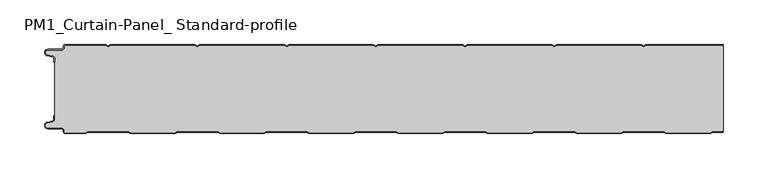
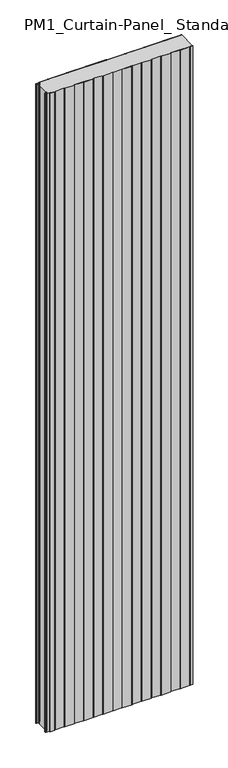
"""IFC4 building model written with IfcOpenShell, lengths in millimetres: plate geometry, PM1_Curtain-Panel_ Standard-profile : ACH_PM1_Acoustic-Sectioning-Panel_100M."""

from ifc_helpers import new_model, si_unit, point, frame_2d, origin, origin_with_axes, place, context, project, spatial, polyline, circle_curve, trimmed, segment, composite_curve, outline, extrude, source, transform, mapped, element, save


def pm1_curtain_panel_standard_profile_fd7bc9c6(model_context):
    return source(origin(), model_context, "Body", "SweptSolid", [
        extrude(outline(composite_curve([segment(trimmed(circle_curve(frame_2d((-377.0, -15.878557)), 2.0), [point((-375.0, -15.878557))], [point((-376.5500978, -13.9298169))], True, "CARTESIAN"), True, "CONTINUOUS"), segment(polyline([(-376.5500978, -13.9298169), (-382.7098239, -12.507732)]), True, "CONTINUOUS"), segment(trimmed(circle_curve(frame_2d((-381.9, -9.0)), 3.6), [point((-382.7098239, -12.507732))], [point((-381.9, -5.4))], False, "CARTESIAN"), True, "CONTINUOUS"), segment(polyline([(-381.9, -5.4), (-366.4, -5.4)]), True, "CONTINUOUS"), segment(trimmed(circle_curve(frame_2d((-366.4, -3.4)), 2.0), [point((-366.4, -5.4))], [point((-364.4, -3.4))], True, "CARTESIAN"), True, "CONTINUOUS"), segment(polyline([(-364.4, -3.4), (-364.4, -2.0)]), True, "CONTINUOUS"), segment(trimmed(circle_curve(frame_2d((-362.4, -2.0)), 2.0), [point((-364.4, -2.0))], [point((-362.4, 0.0))], False, "CARTESIAN"), True, "CONTINUOUS"), segment(polyline([(-362.4, 0.0), (-317.0999995, 0.0), (-314.4, -1.5588455), (-311.7000005, 0.0), (-217.0999995, 0.0), (-214.4, -1.5588455), (-211.7000005, 0.0), (-117.0999995, 0.0), (-114.4, -1.5588455), (-111.7000005, 0.0), (-17.0999995, 0.0), (-14.4, -1.5588455), (-11.7000005, 0.0), (82.9000005, 0.0), (85.6, -1.5588455), (88.2999995, 0.0), (182.9000005, 0.0), (185.6, -1.5588455), (188.2999995, 0.0), (282.9000005, 0.0), (285.6, -1.5588455), (288.2999995, 0.0), (375.0, 0.0), (375.0, -0.8), (288.5143588, -0.8), (285.6, -2.482606), (282.6856412, -0.8), (188.5143588, -0.8), (185.6, -2.482606), (182.6856412, -0.8), (88.5143588, -0.8), (85.6, -2.482606), (82.6856412, -0.8), (-11.4856412, -0.8), (-14.4, -2.482606), (-17.3143588, -0.8), (-111.4856412, -0.8), (-114.4, -2.482606), (-117.3143588, -0.8), (-211.4856412, -0.8), (-214.4, -2.482606), (-217.3143588, -0.8), (-311.4856412, -0.8), (-314.4, -2.482606), (-317.3143588, -0.8), (-362.4, -0.8)]), True, "CONTINUOUS"), segment(trimmed(circle_curve(frame_2d((-362.4, -2.0)), 1.2), [point((-362.4, -0.8))], [point((-363.6, -2.0))], True, "CARTESIAN"), True, "CONTINUOUS"), segment(polyline([(-363.6, -2.0), (-363.6, -3.4)]), True, "CONTINUOUS"), segment(trimmed(circle_curve(frame_2d((-366.4, -3.4)), 2.8), [point((-363.6, -3.4))], [point((-366.4, -6.2))], False, "CARTESIAN"), True, "CONTINUOUS"), segment(polyline([(-366.4, -6.2), (-381.9, -6.2)]), True, "CONTINUOUS"), segment(trimmed(circle_curve(frame_2d((-381.9, -9.0)), 2.8), [point((-381.9, -6.2))], [point((-382.529863, -11.7282362))], True, "CARTESIAN"), True, "CONTINUOUS"), segment(polyline([(-382.529863, -11.7282362), (-376.370137, -13.150321)]), True, "CONTINUOUS"), segment(trimmed(circle_curve(frame_2d((-377.0, -15.878557)), 2.8), [point((-376.370137, -13.150321))], [point((-374.2, -15.878557))], False, "CARTESIAN"), True, "CONTINUOUS"), segment(polyline([(-374.2, -15.878557), (-374.2, -20.0), (-375.0, -20.0), (-375.0, -15.878557)]), True, "CONTINUOUS")], self_intersect=False)), origin_with_axes(), (0.0, 0.0, 1.0), 3500.0),
        extrude(outline(composite_curve([segment(polyline([(-374.2, -84.121443), (-374.2, -15.8785573)]), True, "CONTINUOUS"), segment(trimmed(circle_curve(frame_2d((-377.0, -15.8785573)), 2.8), [point((-374.2, -15.8785573))], [point((-376.370137, -13.1503212))], True, "CARTESIAN"), True, "CONTINUOUS"), segment(polyline([(-376.370137, -13.1503212), (-382.5298631, -11.7282362)]), True, "CONTINUOUS"), segment(trimmed(circle_curve(frame_2d((-381.9, -9.0)), 2.8), [point((-382.5298631, -11.7282362))], [point((-381.9, -6.2))], False, "CARTESIAN"), True, "CONTINUOUS"), segment(polyline([(-381.9, -6.2), (-366.4000001, -6.2)]), True, "CONTINUOUS"), segment(trimmed(circle_curve(frame_2d((-366.4000001, -3.4)), 2.8), [point((-366.4000001, -6.2))], [point((-363.6000001, -3.4))], True, "CARTESIAN"), True, "CONTINUOUS"), segment(polyline([(-363.6000001, -3.4), (-363.6000001, -2.0)]), True, "CONTINUOUS"), segment(trimmed(circle_curve(frame_2d((-362.4000001, -2.0)), 1.2), [point((-363.6000001, -2.0))], [point((-362.4000001, -0.8))], False, "CARTESIAN"), True, "CONTINUOUS"), segment(polyline([(-362.4000001, -0.8), (-317.3143589, -0.8), (-314.4000001, -2.482606), (-311.4856412, -0.8), (-217.3143589, -0.8), (-214.4000001, -2.482606), (-211.4856412, -0.8), (-117.3143589, -0.8), (-114.4000001, -2.482606), (-111.4856412, -0.8), (-17.3143589, -0.8), (-14.4000001, -2.482606), (-11.4856412, -0.8), (82.6856411, -0.8), (85.5999999, -2.482606), (88.5143588, -0.8), (182.6856411, -0.8), (185.5999999, -2.482606), (188.5143588, -0.8), (282.6856411, -0.8), (285.5999999, -2.482606), (288.5143588, -0.8), (375.0, -0.8), (375.0, -97.7), (362.9837184, -97.7), (360.3856408, -99.2), (310.8105122, -99.2), (308.2124346, -97.7), (262.9837184, -97.7), (260.3856408, -99.2), (210.8105122, -99.2), (208.2124346, -97.7), (162.9837184, -97.7), (160.3856408, -99.2), (110.8105122, -99.2), (108.2124346, -97.7), (62.9837184, -97.7), (60.3856408, -99.2), (10.8105122, -99.2), (8.2124346, -97.7), (-37.0162816, -97.7), (-39.6143592, -99.2), (-89.1894878, -99.2), (-91.7875654, -97.7), (-137.0162816, -97.7), (-139.6143592, -99.2), (-189.1894878, -99.2), (-191.7875654, -97.7), (-237.0162816, -97.7), (-239.6143592, -99.2), (-289.1894878, -99.2), (-291.7875654, -97.7), (-337.0162816, -97.7), (-339.6143592, -99.2), (-362.4, -99.2)]), True, "CONTINUOUS"), segment(trimmed(circle_curve(frame_2d((-362.4, -98.0)), 1.2), [point((-362.4, -99.2))], [point((-363.6, -98.0))], False, "CARTESIAN"), True, "CONTINUOUS"), segment(polyline([(-363.6, -98.0), (-363.6, -96.5999998)]), True, "CONTINUOUS"), segment(trimmed(circle_curve(frame_2d((-366.4, -96.5999998)), 2.8), [point((-363.6, -96.5999998))], [point((-366.4, -93.7999998))], True, "CARTESIAN"), True, "CONTINUOUS"), segment(polyline([(-366.4, -93.7999998), (-381.9, -93.7999998)]), True, "CONTINUOUS"), segment(trimmed(circle_curve(frame_2d((-381.9, -91.0)), 2.7999998), [point((-381.9, -93.7999998))], [point((-382.529863, -88.271764))], False, "CARTESIAN"), True, "CONTINUOUS"), segment(polyline([(-382.529863, -88.271764), (-376.370137, -86.8496792)]), True, "CONTINUOUS"), segment(trimmed(circle_curve(frame_2d((-377.0, -84.121443)), 2.8), [point((-376.370137, -86.8496792))], [point((-374.2, -84.121443))], True, "CARTESIAN"), True, "CONTINUOUS")], self_intersect=False)), origin_with_axes(), (0.0, 0.0, 1.0), 3500.0),
        extrude(outline(composite_curve([segment(trimmed(circle_curve(frame_2d((-362.4, -98.0)), 2.0), [point((-362.4, -100.0))], [point((-364.4, -98.0))], False, "CARTESIAN"), True, "CONTINUOUS"), segment(polyline([(-364.4, -98.0), (-364.4, -96.6)]), True, "CONTINUOUS"), segment(trimmed(circle_curve(frame_2d((-366.4, -96.6)), 2.0), [point((-364.4, -96.6))], [point((-366.4, -94.6))], True, "CARTESIAN"), True, "CONTINUOUS"), segment(polyline([(-366.4, -94.6), (-381.9, -94.6)]), True, "CONTINUOUS"), segment(trimmed(circle_curve(frame_2d((-381.9, -91.0)), 3.6), [point((-381.9, -94.6))], [point((-382.7098239, -87.4922678))], False, "CARTESIAN"), True, "CONTINUOUS"), segment(polyline([(-382.7098239, -87.4922678), (-376.5500979, -86.070183)]), True, "CONTINUOUS"), segment(trimmed(circle_curve(frame_2d((-377.0, -84.121443)), 2.0), [point((-376.5500979, -86.070183))], [point((-375.0, -84.121443))], True, "CARTESIAN"), True, "CONTINUOUS"), segment(polyline([(-375.0, -84.121443), (-375.0, -80.0), (-374.2, -80.0), (-374.2, -84.121443)]), True, "CONTINUOUS"), segment(trimmed(circle_curve(frame_2d((-377.0, -84.121443)), 2.8), [point((-374.2, -84.121443))], [point((-376.370137, -86.8496792))], False, "CARTESIAN"), True, "CONTINUOUS"), segment(polyline([(-376.370137, -86.8496792), (-382.529863, -88.271764)]), True, "CONTINUOUS"), segment(trimmed(circle_curve(frame_2d((-381.9, -91.0)), 2.8), [point((-382.529863, -88.271764))], [point((-381.9, -93.8))], True, "CARTESIAN"), True, "CONTINUOUS"), segment(polyline([(-381.9, -93.8), (-366.4, -93.8)]), True, "CONTINUOUS"), segment(trimmed(circle_curve(frame_2d((-366.4, -96.6)), 2.8), [point((-366.4, -93.8))], [point((-363.6, -96.6))], False, "CARTESIAN"), True, "CONTINUOUS"), segment(polyline([(-363.6, -96.6), (-363.6, -98.0)]), True, "CONTINUOUS"), segment(trimmed(circle_curve(frame_2d((-362.4, -98.0)), 1.2), [point((-363.6, -98.0))], [point((-362.4, -99.2))], True, "CARTESIAN"), True, "CONTINUOUS"), segment(polyline([(-362.4, -99.2), (-339.6143592, -99.2), (-337.0162816, -97.7), (-291.7875654, -97.7), (-289.1894878, -99.2), (-239.6143592, -99.2), (-237.0162816, -97.7), (-191.7875654, -97.7), (-189.1894878, -99.2), (-139.6143592, -99.2), (-137.0162816, -97.7), (-91.7875654, -97.7), (-89.1894878, -99.2), (-39.6143592, -99.2), (-37.0162816, -97.7), (8.2124346, -97.7), (10.8105122, -99.2), (60.3856408, -99.2), (62.9837184, -97.7), (108.2124346, -97.7), (110.8105122, -99.2), (160.3856408, -99.2), (162.9837184, -97.7), (208.2124346, -97.7), (210.8105122, -99.2), (260.3856408, -99.2), (262.9837184, -97.7), (308.2124346, -97.7), (310.8105122, -99.2), (360.3856408, -99.2), (362.9837184, -97.7), (375.0, -97.7), (375.0, -98.5), (363.1980777, -98.5), (360.6000001, -100.0), (310.5961529, -100.0), (307.9980753, -98.5), (263.1980777, -98.5), (260.6000001, -100.0), (210.5961529, -100.0), (207.9980753, -98.5), (163.1980777, -98.5), (160.6000001, -100.0), (110.5961529, -100.0), (107.9980753, -98.5), (63.1980777, -98.5), (60.6000001, -100.0), (10.5961529, -100.0), (7.9980753, -98.5), (-36.8019223, -98.5), (-39.3999999, -100.0), (-89.4038471, -100.0), (-92.0019247, -98.5), (-136.8019223, -98.5), (-139.3999999, -100.0), (-189.4038471, -100.0), (-192.0019247, -98.5), (-236.8019223, -98.5), (-239.3999999, -100.0), (-289.4038471, -100.0), (-292.0019247, -98.5), (-336.8019223, -98.5), (-339.3999999, -100.0), (-362.4, -100.0)]), True, "CONTINUOUS")], self_intersect=False)), origin_with_axes(), (0.0, 0.0, 1.0), 3500.0),
    ])


if __name__ == "__main__":
    model = new_model("IFC4")
    model_context = context("Model", 3, world=origin())
    ifc_project = project(units=[si_unit("LENGTHUNIT", "METRE", prefix="MILLI")], contexts=[model_context])
    site = spatial("IfcSite", under=ifc_project)
    building = spatial("IfcBuilding", under=site)
    placement = place(None, origin())
    pm1_curtain_panel_standard_profile_shape = pm1_curtain_panel_standard_profile_fd7bc9c6(model_context)
    element("IfcPlate", 1, ObjectType="PM1_Curtain-Panel_ Standard-profile : ACH_PM1_Acoustic-Sectioning-Panel_100M", at=placement, inside=building, context=model_context, shape_type="MappedRepresentation", body=[
        mapped(pm1_curtain_panel_standard_profile_shape, transform((0.0, 0.0, 0.0), x_axis=(1.0, 0.0, 0.0), y_axis=(0.0, 1.0, 0.0), z_axis=(0.0, 0.0, 1.0))),
    ])
    save(model, "model.ifc")
